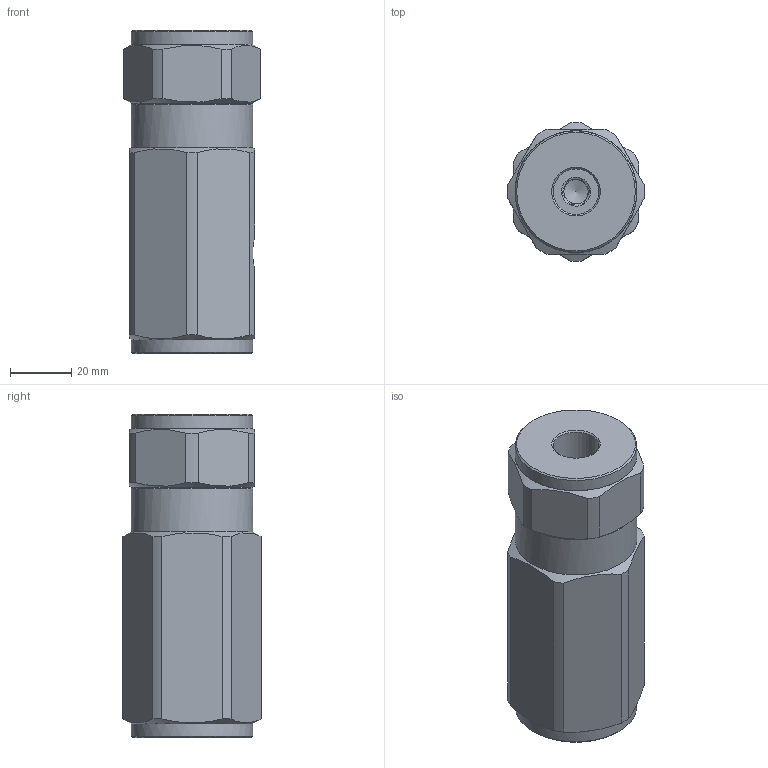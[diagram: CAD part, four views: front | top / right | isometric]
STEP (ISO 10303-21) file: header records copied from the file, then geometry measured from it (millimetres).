
FILE_DESCRIPTION(/* description */ ('Unknown'),/* implementation_level */ '2;1');
FILE_NAME(/* name */ 'VBPSE38',/* time_stamp */ '2024-12-05T10:43:04+01:00',/* author */ ('Unknown'),/* organization */ ('Unknown'),/* preprocessor_version */ 'ST-DEVELOPER v19.4',/* originating_system */ 'Solid Edge',/* authorisation */ 'Unknown');
FILE_SCHEMA (('AUTOMOTIVE_DESIGN {1 0 10303 214 3 1 1}'));
Length unit declared in the file: millimetre
Products named in the file (1): VBPSE38
Bounding box: 45.13 x 45.44 x 105.84 mm (x, y, z)
Volume: 127752.5 mm3; surface area: 32935.2 mm2
Topology: 2 solids, 2 shells, 132 faces, 336 edges, 220 vertices
Faces by surface type: cylinder 50, plane 46, cone 33, bspline 2, torus 1
Full cylindrical faces by diameter (mm): 1.998 x1, 3.996 x4, 4.495 x4, 4.995 x1, 7.992 x1, 9.99 x1, 10.989 x3, 11.434 x1, 11.988 x1, 14.935 x4, 16.783 x1, 16.923 x1, 16.983 x1, 18.981 x1, 19.98 x1, 21.479 x2, 26.324 x1, 26.913 x1, 26.973 x1, 30.346 x2, 39.86 x3
Entity records: 12632 total; most frequent: CARTESIAN_POINT 9096, DIRECTION 532, ORIENTED_EDGE 434, AXIS2_PLACEMENT_3D 249, FACE_BOUND 236, EDGE_LOOP 234, EDGE_CURVE 217, VERTEX_POINT 177
